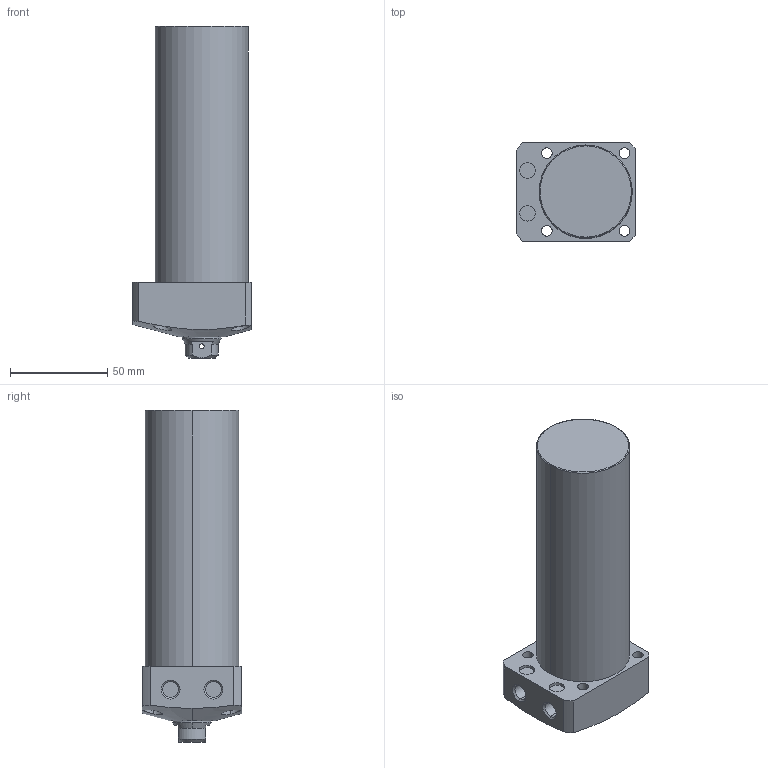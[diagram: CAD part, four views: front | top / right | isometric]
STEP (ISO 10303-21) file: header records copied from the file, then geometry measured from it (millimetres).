
FILE_DESCRIPTION (( 'STEP AP203' ), '1' );
FILE_NAME ('CLL-048CB-105.STEP', '2019-12-21T07:42:46', ( '' ), ( '' ), 'SwSTEP 2.0', 'SolidWorks 2015', '' );
FILE_SCHEMA (( 'CONFIG_CONTROL_DESIGN' ));
Length unit declared in the file: millimetre
Products named in the file (1): CLL-048CB-105
Bounding box: 61 x 51 x 171 mm (x, y, z)
Volume: 313026 mm3; surface area: 34720.1 mm2
Topology: 1 solids, 1 shells, 78 faces, 182 edges, 115 vertices
Faces by surface type: cylinder 39, plane 22, cone 15, torus 2
Entity records: 2751 total; most frequent: CARTESIAN_POINT 852, DIRECTION 394, ORIENTED_EDGE 360, EDGE_CURVE 180, AXIS2_PLACEMENT_3D 163, VERTEX_POINT 115, EDGE_LOOP 101, CIRCLE 84
